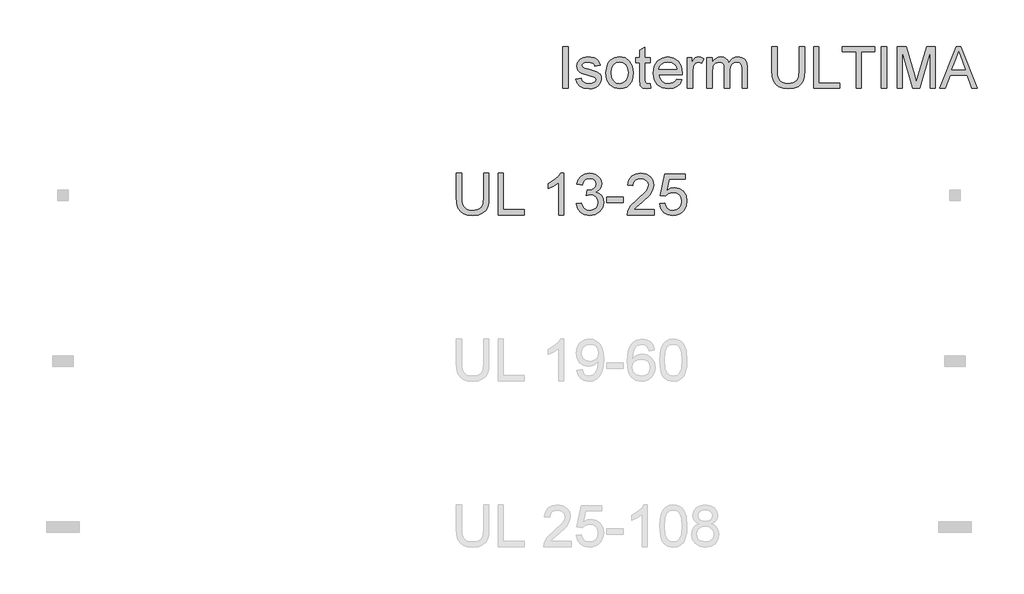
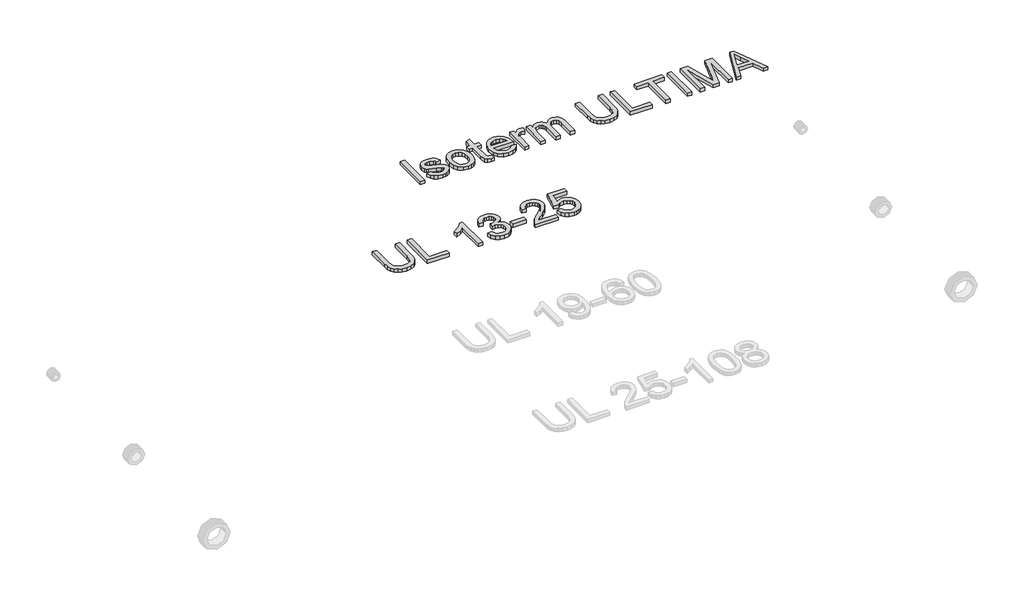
# One storey, part 9 of 10: 2 proxies.
"""IFC4 building model written with IfcOpenShell, lengths in millimetres."""

from ifc_helpers import new_model, si_unit, origin, origin_with_axes, place, context, project, spatial, polyline, outline, extrude, element, save

model = new_model("IFC4")

# Units and contexts
model_context = context("Model", 3, world=origin())
ifc_project = project(units=[si_unit("LENGTHUNIT", "METRE", prefix="MILLI")], contexts=[model_context])

# Site, building, storey
site = spatial("IfcSite", under=ifc_project)
building = spatial("IfcBuilding", under=site)
storey = spatial("IfcBuildingStorey", under=building, Name="Этаж 01", Elevation=0.0)

# Proxies
placement = place(None, origin())
element("IfcBuildingElementProxy", 1, Name="200 мм Arial", ObjectType="200 мм Arial", at=placement, inside=storey, context=model_context, shape_type="SweptSolid", body=[
    extrude(outline(polyline([(13984.860356, -183.6730679), (13984.860356, 17.2395524), (14009.9744335, 17.2395524), (14009.9744335, -183.6730679), (13984.860356, -183.6730679)])), origin_with_axes(), (0.0, 0.0, 1.0), 20.0),
    extrude(outline(polyline([(14047.6455499, -139.7234322), (14072.7596274, -136.5841725), (14076.7204902, -147.3263267), (14084.3846984, -155.2235269), (14095.801303, -160.0795692), (14111.0193549, -161.69825), (14126.0534658, -160.2144593), (14136.6239418, -155.7630872), (14142.8779357, -149.3128895), (14144.9626003, -141.8326223), (14142.8656729, -135.4314756), (14136.5748908, -130.5509078), (14110.7250493, -123.3894716), (14072.9067802, -111.102213), (14063.3357169, -104.9279268), (14056.4011413, -96.7548151), (14050.7848095, -76.4967799), (14055.2974954, -57.7838491), (14067.6092795, -43.4855022), (14083.575358, -36.0542859), (14105.1822939, -32.9886026), (14135.741025, -37.9182214), (14147.1698923, -43.7184942), (14155.1651943, -51.2600751), (14163.7981585, -73.7989786), (14138.6840809, -76.9382383), (14135.5141644, -69.0349068), (14129.2417764, -63.0813498), (14107.1443312, -58.1026802), (14092.723357, -59.2921653), (14083.1093742, -62.8606207), (14077.7015089, -68.0109686), (14075.8988871, -73.9461314), (14078.890994, -81.2547204), (14088.2597221, -86.7974758), (14109.8911834, -92.1440275), (14146.7529594, -103.9653022), (14163.8717349, -117.3562069), (14168.5254421, -127.2031816), (14170.0766778, -139.1838719), (14168.255662, -151.5692324), (14162.7926143, -163.2188289), (14153.8960014, -173.2190878), (14141.7742897, -180.6564355), (14127.1325863, -185.2733545), (14110.6759984, -186.8123276), (14085.3534544, -183.8447461), (14066.8735155, -174.9420018), (14054.5372059, -160.2021966), (14047.6455499, -139.7234322)])), origin_with_axes(), (0.0, 0.0, 1.0), 20.0),
    extrude(outline(polyline([(14192.0514957, -109.9004651), (14197.4838865, -74.3262762), (14204.274375, -60.5031102), (14213.7810589, -49.3225632), (14233.9164667, -37.0720928), (14258.0250002, -32.9886026), (14284.4082706, -37.9611409), (14305.4817775, -52.8787558), (14319.2957465, -76.564225), (14323.9004028, -107.8403259), (14321.8647891, -133.2119209), (14315.7579479, -152.5257256), (14305.757689, -166.9896194), (14292.041822, -177.8114814), (14275.750781, -184.562116), (14258.0250002, -186.8123276), (14231.3228987, -181.8581834), (14210.2739172, -166.9957508), (14196.6071011, -142.8136409), (14192.0514957, -109.9004651)]), holes=[polyline([(14217.1655732, -109.8514142), (14220.071841, -132.5803901), (14228.7906443, -148.7733293), (14241.9117688, -158.4670198), (14258.0250002, -161.69825), (14274.0646552, -158.4486257), (14287.1612542, -148.6997529), (14295.8800575, -132.2922159), (14298.7863252, -109.0665992), (14295.8616634, -86.9998109), (14287.0876778, -71.0276009), (14273.9726847, -61.3339104), (14258.0250002, -58.1026802), (14241.9117688, -61.3216476), (14228.7906443, -70.97855), (14220.071841, -87.134701), (14217.1655732, -109.8514142)])]), origin_with_axes(), (0.0, 0.0, 1.0), 20.0),
    extrude(outline(polyline([(14405.5211548, -162.7283196), (14408.6604145, -184.4088319), (14389.8739072, -186.8123276), (14368.8310571, -182.6429983), (14358.3341575, -171.7046403), (14355.2929997, -143.2060484), (14355.2929997, -61.2419399), (14336.4574415, -61.2419399), (14336.4574415, -36.1278623), (14355.2929997, -36.1278623), (14355.2929997, -0.2716305), (14380.4070772, 14.4927002), (14380.4070772, -36.1278623), (14405.5211548, -36.1278623), (14405.5211548, -61.2419399), (14380.4070772, -61.2419399), (14380.4070772, -142.4702844), (14381.7314524, -155.4197306), (14386.023409, -160.0059928), (14394.5827968, -161.69825), (14405.5211548, -162.7283196)])), origin_with_axes(), (0.0, 0.0, 1.0), 20.0),
    extrude(outline(polyline([(14533.9364965, -139.7234322), (14558.5600648, -142.8626919), (14549.6879773, -161.4162072), (14535.5306519, -175.2853584), (14516.4069195, -183.9305853), (14492.6356112, -186.8123276), (14463.1682634, -181.8397893), (14440.4944698, -166.9221744), (14426.0367074, -143.0282388), (14421.2174532, -111.1267384), (14426.0857583, -78.1522489), (14440.6906735, -53.4918925), (14463.0578988, -38.1144251), (14491.2131342, -32.9886026), (14518.4915841, -38.1021624), (14540.2885923, -53.4428416), (14554.5808078, -78.0541471), (14559.3448797, -110.9795856), (14559.1977269, -117.7486143), (14446.3315308, -117.7486143), (14450.6786697, -136.5473843), (14460.7770304, -150.3674846), (14475.3512888, -158.8655587), (14493.1261205, -161.69825), (14517.7496888, -156.4498002), (14526.8976877, -149.6439833), (14533.9364965, -139.7234322)]), holes=[polyline([(14446.3315308, -92.6345368), (14534.2308021, -92.6345368), (14530.8340251, -79.3662595), (14524.1753609, -69.874904), (14509.5336575, -61.0457361), (14491.1150323, -58.1026802), (14474.1863292, -60.4509936), (14460.1884192, -67.4959338), (14450.4579405, -78.4772113), (14446.3315308, -92.6345368)])]), origin_with_axes(), (0.0, 0.0, 1.0), 20.0),
    extrude(outline(polyline([(14584.4589572, -183.6730679), (14584.4589572, -36.1278623), (14606.4337751, -36.1278623), (14606.4337751, -57.9555274), (14622.0319717, -37.844645), (14637.7282701, -32.9886026), (14650.236258, -34.9261145), (14662.9404495, -40.73865), (14654.55274, -63.2530281), (14636.8944043, -58.1026802), (14622.6941592, -63.0568244), (14613.6442622, -76.7910855), (14609.5730348, -106.1235433), (14609.5730348, -183.6730679), (14584.4589572, -183.6730679)])), origin_with_axes(), (0.0, 0.0, 1.0), 20.0),
    extrude(outline(polyline([(14678.636748, -183.6730679), (14678.636748, -36.1278623), (14703.7508255, -36.1278623), (14703.7508255, -60.408074), (14711.3046692, -49.2551182), (14721.0167538, -40.5179208), (14732.5559857, -34.8709322), (14745.5912711, -32.9886026), (14759.5585242, -34.9077204), (14770.7543996, -40.6650736), (14779.1175836, -49.8805176), (14784.5867626, -62.1739076), (14793.7408929, -49.4053367), (14804.1826102, -40.2849289), (14815.9119145, -34.8126842), (14828.9288057, -32.9886026), (14847.8072835, -36.0236291), (14861.7684052, -45.1287085), (14870.395238, -60.5490954), (14873.2708489, -82.5300447), (14873.2708489, -183.6730679), (14848.1567714, -183.6730679), (14848.1567714, -93.3212499), (14845.8268521, -72.3519761), (14837.3900916, -62.0267548), (14823.0426938, -58.1026802), (14809.4371914, -60.6165405), (14798.3455492, -68.1581214), (14790.9695152, -81.2424577), (14788.5108372, -100.3845842), (14788.5108372, -183.6730679), (14763.3967597, -183.6730679), (14763.3967597, -90.5253467), (14761.9436258, -76.3251017), (14757.5842241, -66.1960841), (14749.9138845, -60.1260312), (14738.5279368, -58.1026802), (14719.9376333, -63.4982828), (14712.5799934, -70.1446842), (14707.5767983, -79.2926831), (14703.7508255, -109.262803), (14703.7508255, -183.6730679), (14678.636748, -183.6730679)])), origin_with_axes(), (0.0, 0.0, 1.0), 20.0),
    extrude(outline(polyline([(15124.4116243, 17.2395524), (15149.5257018, 17.2395524), (15149.5257018, -98.6678015), (15147.8211819, -125.8113614), (15142.7076222, -146.7131901), (15133.154953, -162.8386842), (15118.1331049, -175.6532404), (15097.6052896, -184.0225558), (15071.5347188, -186.8123276), (15046.0343652, -184.3843064), (15025.6475713, -177.1002429), (15010.3682058, -165.2115231), (15000.1901372, -148.969533), (14994.4695722, -127.1847875), (14992.5627172, -98.6678015), (14992.5627172, 17.2395524), (15017.6767947, 17.2395524), (15017.6767947, -97.7848847), (15018.9153308, -120.3544451), (15022.6309389, -136.0691377), (15029.3631794, -146.9523134), (15039.6516126, -155.0273232), (15053.0670427, -160.0305183), (15069.1802741, -161.69825), (15094.7235473, -158.3995748), (15111.7074327, -148.5035491), (15121.2355764, -129.2265326), (15124.4116243, -97.7848847), (15124.4116243, 17.2395524)])), origin_with_axes(), (0.0, 0.0, 1.0), 20.0),
    extrude(outline(polyline([(15193.4753375, -183.6730679), (15193.4753375, 17.2395524), (15218.589415, 17.2395524), (15218.589415, -158.5589903), (15319.0457252, -158.5589903), (15319.0457252, -183.6730679), (15193.4753375, -183.6730679)])), origin_with_axes(), (0.0, 0.0, 1.0), 20.0),
    extrude(outline(polyline([(15397.5272175, -183.6730679), (15397.5272175, -7.8745251), (15331.602764, -7.8745251), (15331.602764, 17.2395524), (15488.5657486, 17.2395524), (15488.5657486, -7.8745251), (15422.641295, -7.8745251), (15422.641295, -183.6730679), (15397.5272175, -183.6730679)])), origin_with_axes(), (0.0, 0.0, 1.0), 20.0),
    extrude(outline(polyline([(15519.9583455, -183.6730679), (15519.9583455, 17.2395524), (15545.072423, 17.2395524), (15545.072423, -183.6730679), (15519.9583455, -183.6730679)])), origin_with_axes(), (0.0, 0.0, 1.0), 20.0),
    extrude(outline(polyline([(15595.3005781, -183.6730679), (15595.3005781, 17.2395524), (15638.5144498, 17.2395524), (15679.6191314, -124.3704902), (15687.908739, -153.9482027), (15696.8850597, -121.9179436), (15737.3030282, 17.2395524), (15780.5168999, 17.2395524), (15780.5168999, -183.6730679), (15755.4028224, -183.6730679), (15755.4028224, -7.8745251), (15704.9294127, -183.6730679), (15670.8880654, -183.6730679), (15620.4146556, -7.8745251), (15620.4146556, -183.6730679), (15595.3005781, -183.6730679)])), origin_with_axes(), (0.0, 0.0, 1.0), 20.0),
    extrude(outline(polyline([(15801.0692407, -183.6730679), (15881.2675157, 17.2395524), (15902.6537223, 17.2395524), (15982.8519973, -183.6730679), (15956.3154427, -183.6730679), (15933.3105553, -120.887874), (15850.5616318, -120.887874), (15827.6057953, -183.6730679), (15801.0692407, -183.6730679)]), holes=[polyline([(15859.7832072, -95.7737965), (15924.1380309, -95.7737965), (15906.0382367, -46.3795073), (15891.960619, -7.8745251), (15879.4526312, -42.0630252), (15859.7832072, -95.7737965)])]), origin_with_axes(), (0.0, 0.0, 1.0), 20.0),
])
element("IfcBuildingElementProxy", 2, Name="200 мм Arial", ObjectType="200 мм Arial", at=placement, inside=storey, context=model_context, shape_type="SweptSolid", body=[
    extrude(outline(polyline([(13603.3765459, -594.0655544), (13628.4906234, -594.0655544), (13628.4906234, -709.9729084), (13626.7861035, -737.1164682), (13621.6725438, -758.0182969), (13612.1198746, -774.1437911), (13597.0980265, -786.9583472), (13576.5702112, -795.3276626), (13550.4996404, -798.1174344), (13524.9992868, -795.6894132), (13504.6124929, -788.4053497), (13489.3331274, -776.5166299), (13479.1550588, -760.2746398), (13473.4344938, -738.4898944), (13471.5276388, -709.9729084), (13471.5276388, -594.0655544), (13496.6417163, -594.0655544), (13496.6417163, -709.0899916), (13497.8802524, -731.659552), (13501.5958605, -747.3742445), (13508.3281011, -758.2574202), (13518.6165342, -766.33243), (13532.0319643, -771.3356252), (13548.1451957, -773.0033569), (13573.6884689, -769.7046817), (13590.6723543, -759.808656), (13600.200498, -740.5316394), (13603.3765459, -709.0899916), (13603.3765459, -594.0655544)])), origin_with_axes(), (0.0, 0.0, 1.0), 20.0),
    extrude(outline(polyline([(13672.4402591, -794.9781747), (13672.4402591, -594.0655544), (13697.5543366, -594.0655544), (13697.5543366, -769.8640972), (13798.0106468, -769.8640972), (13798.0106468, -794.9781747), (13672.4402591, -794.9781747)])), origin_with_axes(), (0.0, 0.0, 1.0), 20.0),
    extrude(outline(polyline([(13989.505488, -794.9781747), (13964.3914105, -794.9781747), (13964.3914105, -638.4075976), (13940.6017081, -655.3546948), (13914.1632554, -668.0343609), (13914.1632554, -644.2937095), (13950.9759804, -620.7983127), (13964.4465928, -607.2234671), (13973.3186802, -594.0655544), (13989.505488, -594.0655544), (13989.505488, -794.9781747)])), origin_with_axes(), (0.0, 0.0, 1.0), 20.0),
    extrude(outline(polyline([(14049.1514222, -741.61076), (14074.2654997, -738.4715003), (14079.8879629, -754.2536379), (14088.1223882, -764.909953), (14099.3734459, -770.9800059), (14114.0458061, -773.0033569), (14131.2626835, -770.2197164), (14144.5554862, -761.8687952), (14153.0535603, -749.4098583), (14155.8862517, -734.302171), (14153.0780858, -719.9609045), (14144.6535881, -708.3297021), (14131.9003456, -700.6225743), (14116.1059453, -698.0535317), (14098.4966605, -700.800384), (14101.2925636, -675.6863064), (14105.3147401, -675.980612), (14120.3611137, -674.1779902), (14133.813332, -668.7701249), (14143.3046875, -659.622126), (14146.4684726, -646.5991033), (14144.1753415, -635.7527158), (14137.2959482, -626.9542048), (14126.7990486, -621.1232752), (14113.6533987, -619.179632), (14100.4832232, -621.1416693), (14089.7165435, -627.0277812), (14081.8561315, -636.8379677), (14077.4047594, -650.5722289), (14052.2906819, -647.4329692), (14059.68511, -624.8818029), (14072.8430227, -608.0450702), (14090.844715, -597.5604334), (14112.7704819, -594.0655544), (14128.5587508, -595.7884684), (14143.0594328, -600.9572105), (14155.2853778, -609.111928), (14164.2494357, -619.7927686), (14169.7492716, -632.0984214), (14171.5825502, -645.1275754), (14169.8412421, -657.2676812), (14164.6173177, -668.2796156), (14155.9843536, -677.6606065), (14144.015926, -684.9078818), (14159.7367499, -691.2599776), (14171.3863464, -702.0757082), (14178.5968335, -716.7664625), (14181.0003292, -734.7436294), (14176.1933378, -759.2200448), (14161.7723636, -779.6742837), (14140.0060122, -793.5066467), (14113.1628893, -798.1174344), (14088.8826776, -794.1810971), (14069.1151518, -782.372085), (14055.3686279, -764.3090791), (14049.1514222, -741.61076)])), origin_with_axes(), (0.0, 0.0, 1.0), 20.0),
    extrude(outline(polyline([(14196.6966277, -735.3322406), (14196.6966277, -710.218163), (14275.17812, -710.218163), (14275.17812, -735.3322406), (14196.6966277, -735.3322406)])), origin_with_axes(), (0.0, 0.0, 1.0), 20.0),
    extrude(outline(polyline([(14425.8625852, -769.8640972), (14425.8625852, -794.9781747), (14294.0136782, -794.9781747), (14296.7114795, -777.6631955), (14311.9663195, -751.0040136), (14343.4079674, -721.892285), (14386.7689919, -680.0518394), (14394.899184, -665.6308652), (14397.609248, -651.6022985), (14395.0524681, -639.0268656), (14387.3821285, -628.5728856), (14375.5915106, -621.5279454), (14360.6738957, -619.179632), (14345.0082541, -621.4727631), (14332.8374914, -628.3521564), (14324.9832108, -639.2782516), (14322.2670154, -653.7114886), (14297.1529378, -650.5722289), (14303.2413849, -626.2797545), (14316.4054289, -608.5355796), (14335.958357, -597.6830607), (14361.2134559, -594.0655544), (14386.6524959, -598.0877309), (14406.1686358, -610.1542603), (14418.5846531, -628.1804781), (14422.7233255, -650.0817196), (14418.2596907, -673.8959474), (14403.4217835, -698.5195156), (14367.4429244, -732.9287449), (14338.551925, -757.0863292), (14327.2211596, -769.8640972), (14425.8625852, -769.8640972)])), origin_with_axes(), (0.0, 0.0, 1.0), 20.0),
    extrude(outline(polyline([(14450.9766628, -741.61076), (14476.0907403, -738.4715003), (14480.701528, -753.5485307), (14488.7458809, -764.3458673), (14500.187011, -770.8389845), (14514.9881299, -773.0033569), (14532.9898222, -769.9928559), (14546.4788287, -760.9613529), (14554.9033264, -746.9511803), (14557.7114923, -729.0046703), (14555.081136, -712.1066239), (14547.1900672, -699.1817032), (14533.9769722, -690.9779347), (14515.3805374, -688.2433452), (14493.3321431, -692.6088782), (14479.23, -703.9396437), (14454.1159225, -700.800384), (14476.0907403, -597.2048141), (14573.4077908, -597.2048141), (14573.4077908, -622.3188917), (14496.3978264, -622.3188917), (14485.6556722, -677.6483437), (14503.5960508, -666.7590367), (14522.3948208, -663.1292677), (14545.8595607, -667.6296907), (14565.3389123, -681.13096), (14578.4539055, -701.7078262), (14582.8255698, -727.4350404), (14578.8892325, -752.5491179), (14567.0802204, -774.0334265), (14556.6446345, -784.5701799), (14544.4677405, -792.0964324), (14530.5495383, -796.6121839), (14514.8900281, -798.1174344), (14490.2235403, -794.2485421), (14470.5725104, -782.6418652), (14457.101898, -764.6463042), (14450.9766628, -741.61076)])), origin_with_axes(), (0.0, 0.0, 1.0), 20.0),
])

save(model, "model.ifc")
